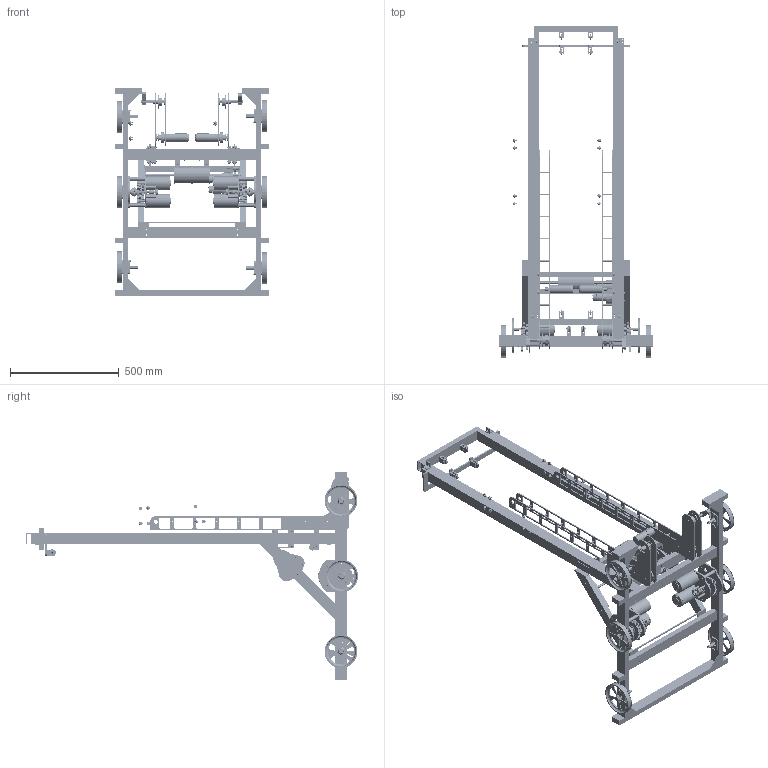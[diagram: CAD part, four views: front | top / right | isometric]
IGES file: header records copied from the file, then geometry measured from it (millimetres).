
Start section: SolidWorks IGES file using analytic representation for surfaces
Global section: file name: E:\FIRST\2008 Robot\Daisy II Robot Assembly.IGS; native system: SolidWorks 2007; preprocessor: SolidWorks 2007; author: Jon Jack; date: 091010.164302; units: inch
Bounding box: 704.85 x 1524.17 x 952.5 mm (x, y, z)
Surface area: 5840047.9 mm2 (no closed solid volume)
Topology: 0 solids, 0 shells, 24841 faces, 316334 edges, 315826 vertices
Faces by surface type: revolution 19996, bspline 4845
